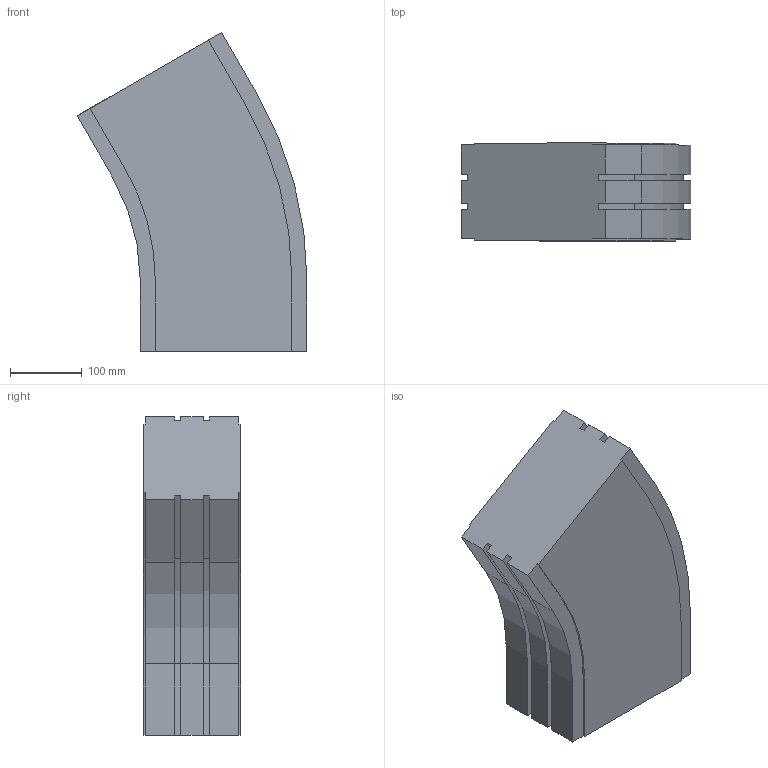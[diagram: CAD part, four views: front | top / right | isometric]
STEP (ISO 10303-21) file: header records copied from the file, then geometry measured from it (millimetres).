
FILE_DESCRIPTION (( 'STEP AP214' ), '1' );
FILE_NAME ('02.150H30.230.N FS-MTC-150 Bocht horizontaal 30°.STEP', '2013-03-29T11:12:32', ( 'Gebruiker' ), ( '' ), 'SwSTEP 2.0', 'SolidWorks 2012', '' );
FILE_SCHEMA (( 'AUTOMOTIVE_DESIGN' ));
Length unit declared in the file: millimetre
Products named in the file (1): 02.150H30.230.N FS-MTC-150 Bocht horizontaal 30°
Bounding box: 320.52 x 136 x 444.73 mm (x, y, z)
Volume: 12707364.6 mm3; surface area: 399859.6 mm2
Topology: 1 solids, 1 shells, 58 faces, 168 edges, 112 vertices
Faces by surface type: plane 44, cylinder 14
Entity records: 1934 total; most frequent: CARTESIAN_POINT 339, ORIENTED_EDGE 336, DIRECTION 314, EDGE_CURVE 168, VECTOR 140, LINE 140, VERTEX_POINT 112, AXIS2_PLACEMENT_3D 87
